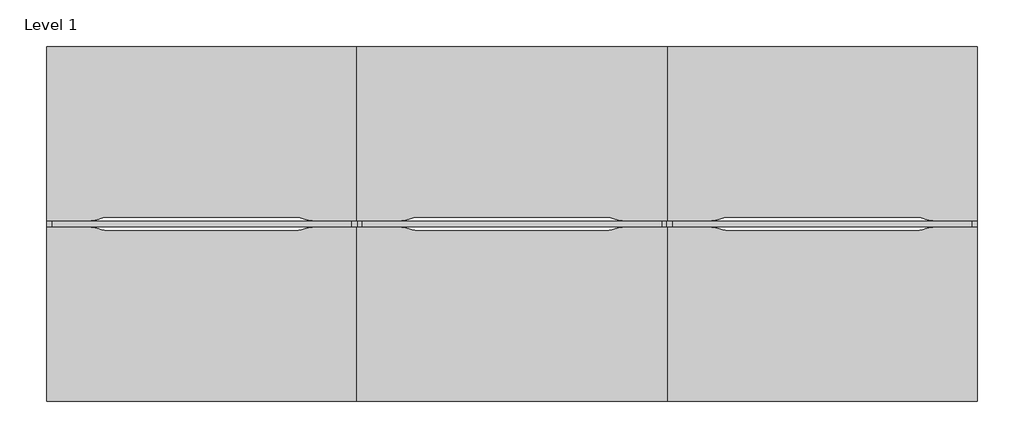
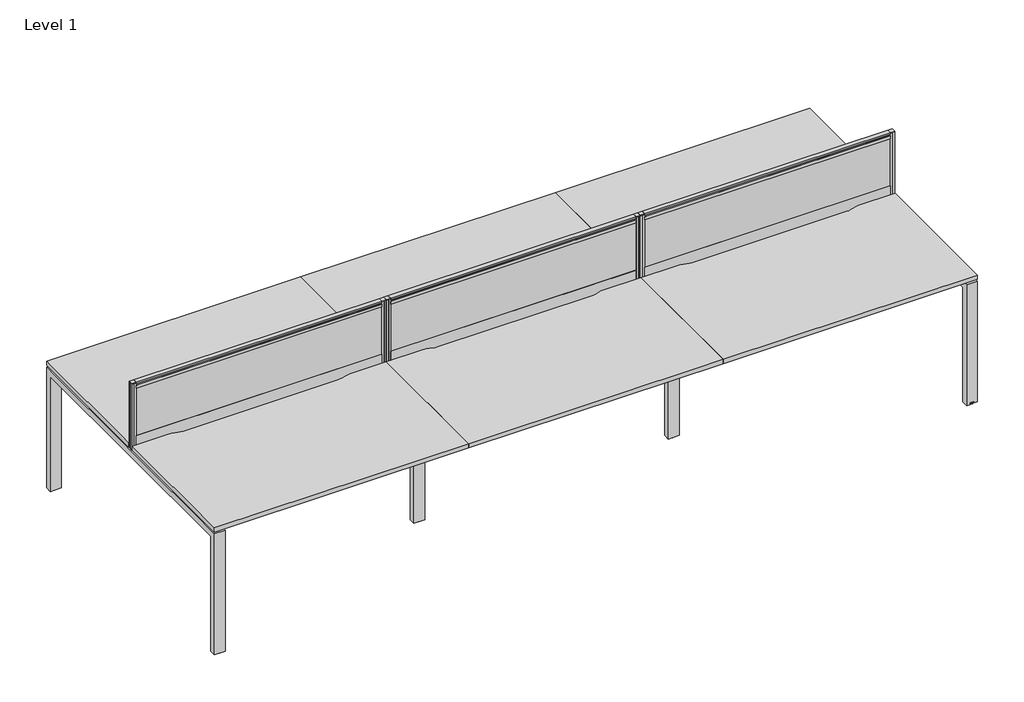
# One storey: 1 furniture element.
"""IFC4 building model written with IfcOpenShell, lengths in millimetres."""

from ifc_helpers import new_model, si_unit, origin, place, context, project, spatial, transform, mapped, element, save
from components import team_6_person_1400x1600_team_6_person_1400x1600_f9ec3fc5

model = new_model("IFC4")

# Units and contexts
model_context = context("Model", 3, world=origin())
ifc_project = project(units=[si_unit("LENGTHUNIT", "METRE", prefix="MILLI")], contexts=[model_context])

# Site, building, storey
site = spatial("IfcSite", under=ifc_project)
building = spatial("IfcBuilding", under=site)
storey = spatial("IfcBuildingStorey", under=building, Name="Level 1", Elevation=0.0)

# Furniture
placement = place(None, origin())
team_6_person_1400x1600_team_6_person_1400x1600_shape = team_6_person_1400x1600_team_6_person_1400x1600_f9ec3fc5(model_context)
element("IfcFurniture", 1, ObjectType="Team 6 person 1400x1600 : Team 6 person 1400x1600", at=placement, inside=storey, context=model_context, shape_type="MappedRepresentation", body=[
    mapped(team_6_person_1400x1600_team_6_person_1400x1600_shape, transform((6810.1028571, 2351.3142857, 0.0), x_axis=(1.0, 0.0, 0.0), y_axis=(0.0, 1.0, 0.0), z_axis=(0.0, 0.0, 1.0))),
])

save(model, "model.ifc")
